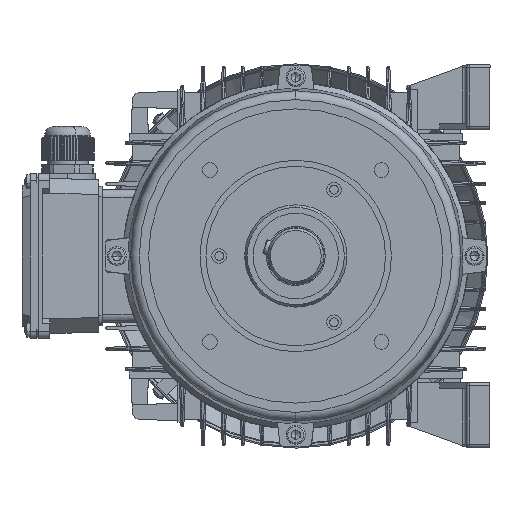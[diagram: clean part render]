
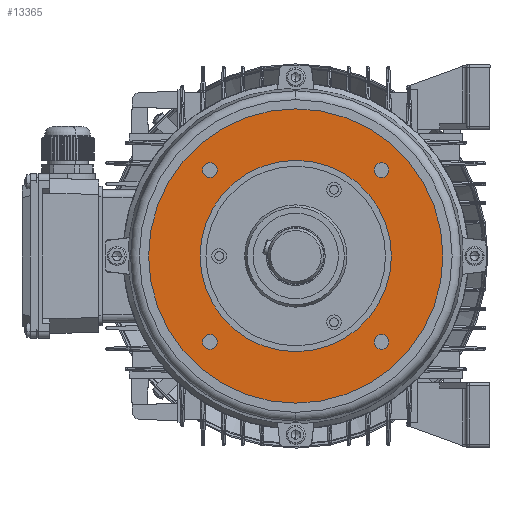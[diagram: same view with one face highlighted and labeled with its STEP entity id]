
A CAD part, left-side view. The second image highlights one B-rep face of the part: STEP entity #13365.
In plain terms, the highlighted planar face has unit normal (-1, 0, 0).
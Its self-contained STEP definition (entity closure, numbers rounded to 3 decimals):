
#4762 = DIRECTION ( 'NONE',  ( 0., 0., 1. ) ) ;
#8361 = EDGE_LOOP ( 'NONE', ( #82336, #64288 ) ) ;
#9324 = CIRCLE ( 'NONE', #75672, 5. ) ;
#9686 = DIRECTION ( 'NONE',  ( 0., 0., -1. ) ) ;
#9802 = CIRCLE ( 'NONE', #82036, 5. ) ;
#10241 = CIRCLE ( 'NONE', #122213, 5. ) ;
#10292 = DIRECTION ( 'NONE',  ( 0., 0., -1. ) ) ;
#13365 = ADVANCED_FACE ( 'NONE', ( #113324, #99081, #122864, #132344, #141899, #151468 ), #97032, .F. ) ;
#13437 = VERTEX_POINT ( 'NONE', #151239 ) ;
#13615 = CARTESIAN_POINT ( 'NONE',  ( 3.5, 58.336, -58.336 ) ) ;
#17548 = AXIS2_PLACEMENT_3D ( 'NONE', #47558, #28660, #9686 ) ;
#20653 = EDGE_CURVE ( 'NONE', #118233, #98351, #42379, .T. ) ;
#23156 = CARTESIAN_POINT ( 'NONE',  ( 3.5, 58.336, -53.336 ) ) ;
#23387 = DIRECTION ( 'NONE',  ( 0., 0., -1. ) ) ;
#23790 = DIRECTION ( 'NONE',  ( -1., 0., 0. ) ) ;
#25079 = AXIS2_PLACEMENT_3D ( 'NONE', #48155, #29241, #10292 ) ;
#25159 = DIRECTION ( 'NONE',  ( 0., 0., 1. ) ) ;
#25799 = EDGE_CURVE ( 'NONE', #13437, #177411, #117354, .T. ) ;
#28660 = DIRECTION ( 'NONE',  ( 1., 0., 0. ) ) ;
#29241 = DIRECTION ( 'NONE',  ( 1., 0., 0. ) ) ;
#35384 = EDGE_CURVE ( 'NONE', #70164, #183349, #54802, .T. ) ;
#36179 = EDGE_CURVE ( 'NONE', #174346, #40818, #126534, .T. ) ;
#37310 = CARTESIAN_POINT ( 'NONE',  ( 3.5, -58.336, -63.336 ) ) ;
#40079 = VERTEX_POINT ( 'NONE', #37310 ) ;
#40264 = DIRECTION ( 'NONE',  ( 0., 0., -1. ) ) ;
#40818 = VERTEX_POINT ( 'NONE', #99406 ) ;
#40828 = ORIENTED_EDGE ( 'NONE', *, *, #154578, .F. ) ;
#42255 = DIRECTION ( 'NONE',  ( 1., 0., 0. ) ) ;
#42379 = CIRCLE ( 'NONE', #169642, 5. ) ;
#43240 = VERTEX_POINT ( 'NONE', #69346 ) ;
#44021 = DIRECTION ( 'NONE',  ( -1., 0., 0. ) ) ;
#47558 = CARTESIAN_POINT ( 'NONE',  ( 3.5, 58.336, 58.336 ) ) ;
#48026 = ORIENTED_EDGE ( 'NONE', *, *, #49301, .T. ) ;
#48155 = CARTESIAN_POINT ( 'NONE',  ( 3.5, 58.336, 58.336 ) ) ;
#48416 = EDGE_CURVE ( 'NONE', #89465, #40079, #9324, .T. ) ;
#49301 = EDGE_CURVE ( 'NONE', #43240, #53611, #10241, .T. ) ;
#53611 = VERTEX_POINT ( 'NONE', #161081 ) ;
#53867 = DIRECTION ( 'NONE',  ( 0., 0., 1. ) ) ;
#54056 = DIRECTION ( 'NONE',  ( 0., 0., -1. ) ) ;
#54802 = CIRCLE ( 'NONE', #104912, 100. ) ;
#55645 = EDGE_LOOP ( 'NONE', ( #48026, #75110 ) ) ;
#59166 = DIRECTION ( 'NONE',  ( 1., 0., 0. ) ) ;
#61063 = DIRECTION ( 'NONE',  ( 0., 0., -1. ) ) ;
#61174 = CARTESIAN_POINT ( 'NONE',  ( 3.5, -58.336, -58.336 ) ) ;
#63973 = EDGE_CURVE ( 'NONE', #40818, #174346, #96560, .T. ) ;
#64288 = ORIENTED_EDGE ( 'NONE', *, *, #48416, .T. ) ;
#65012 = ORIENTED_EDGE ( 'NONE', *, *, #63973, .T. ) ;
#66746 = CIRCLE ( 'NONE', #75318, 100. ) ;
#69346 = CARTESIAN_POINT ( 'NONE',  ( 3.5, -58.336, 53.336 ) ) ;
#70164 = VERTEX_POINT ( 'NONE', #94626 ) ;
#71440 = ORIENTED_EDGE ( 'NONE', *, *, #109636, .T. ) ;
#72755 = DIRECTION ( 'NONE',  ( -1., 0., 0. ) ) ;
#72942 = DIRECTION ( 'NONE',  ( 1., 0., 0. ) ) ;
#75110 = ORIENTED_EDGE ( 'NONE', *, *, #176739, .T. ) ;
#75318 = AXIS2_PLACEMENT_3D ( 'NONE', #80540, #23790, #4762 ) ;
#75563 = EDGE_CURVE ( 'NONE', #183349, #70164, #66746, .T. ) ;
#75672 = AXIS2_PLACEMENT_3D ( 'NONE', #61174, #42255, #23387 ) ;
#75758 = EDGE_LOOP ( 'NONE', ( #164406, #71440 ) ) ;
#77237 = CARTESIAN_POINT ( 'NONE',  ( 3.5, 0., 0. ) ) ;
#78107 = CARTESIAN_POINT ( 'NONE',  ( 3.5, 65., 0. ) ) ;
#79017 = AXIS2_PLACEMENT_3D ( 'NONE', #184552, #165676, #146802 ) ;
#80006 = DIRECTION ( 'NONE',  ( 1., 0., 0. ) ) ;
#80194 = EDGE_LOOP ( 'NONE', ( #40828, #128839 ) ) ;
#80540 = CARTESIAN_POINT ( 'NONE',  ( 3.5, 0., 0. ) ) ;
#82005 = CIRCLE ( 'NONE', #146337, 5. ) ;
#82036 = AXIS2_PLACEMENT_3D ( 'NONE', #13615, #179322, #160402 ) ;
#82336 = ORIENTED_EDGE ( 'NONE', *, *, #163424, .T. ) ;
#89465 = VERTEX_POINT ( 'NONE', #172149 ) ;
#91914 = CARTESIAN_POINT ( 'NONE',  ( 3.5, -58.336, 58.336 ) ) ;
#93510 = CIRCLE ( 'NONE', #79017, 5. ) ;
#94626 = CARTESIAN_POINT ( 'NONE',  ( 3.5, 0., -100. ) ) ;
#96560 = CIRCLE ( 'NONE', #17548, 5. ) ;
#97032 = PLANE ( 'NONE',  #118076 ) ;
#98351 = VERTEX_POINT ( 'NONE', #23156 ) ;
#98897 = CARTESIAN_POINT ( 'NONE',  ( 3.5, -58.336, -58.336 ) ) ;
#99081 = FACE_BOUND ( 'NONE', #8361, .T. ) ;
#99406 = CARTESIAN_POINT ( 'NONE',  ( 3.5, 58.336, 63.336 ) ) ;
#104912 = AXIS2_PLACEMENT_3D ( 'NONE', #138568, #44021, #25159 ) ;
#108307 = DIRECTION ( 'NONE',  ( 0., 0., 1. ) ) ;
#109636 = EDGE_CURVE ( 'NONE', #98351, #118233, #9802, .T. ) ;
#112004 = CARTESIAN_POINT ( 'NONE',  ( 3.5, 58.336, -63.336 ) ) ;
#113324 = FACE_BOUND ( 'NONE', #55645, .T. ) ;
#117354 = CIRCLE ( 'NONE', #177408, 65. ) ;
#118076 = AXIS2_PLACEMENT_3D ( 'NONE', #78107, #59166, #40264 ) ;
#118233 = VERTEX_POINT ( 'NONE', #112004 ) ;
#121170 = ORIENTED_EDGE ( 'NONE', *, *, #75563, .T. ) ;
#122213 = AXIS2_PLACEMENT_3D ( 'NONE', #91914, #72942, #54056 ) ;
#122864 = FACE_BOUND ( 'NONE', #75758, .T. ) ;
#126534 = CIRCLE ( 'NONE', #25079, 5. ) ;
#127107 = DIRECTION ( 'NONE',  ( -1., 0., 0. ) ) ;
#128419 = CIRCLE ( 'NONE', #176387, 65. ) ;
#128839 = ORIENTED_EDGE ( 'NONE', *, *, #25799, .F. ) ;
#132344 = FACE_BOUND ( 'NONE', #145258, .T. ) ;
#134249 = CARTESIAN_POINT ( 'NONE',  ( 3.5, 58.336, 53.336 ) ) ;
#136570 = CARTESIAN_POINT ( 'NONE',  ( 3.5, 0., 100. ) ) ;
#138568 = CARTESIAN_POINT ( 'NONE',  ( 3.5, 0., 0. ) ) ;
#139685 = CARTESIAN_POINT ( 'NONE',  ( 3.5, 0., 65. ) ) ;
#141899 = FACE_BOUND ( 'NONE', #80194, .T. ) ;
#144435 = DIRECTION ( 'NONE',  ( 0., 0., -1. ) ) ;
#145258 = EDGE_LOOP ( 'NONE', ( #166477, #65012 ) ) ;
#146058 = CARTESIAN_POINT ( 'NONE',  ( 3.5, 0., 0. ) ) ;
#146337 = AXIS2_PLACEMENT_3D ( 'NONE', #98897, #80006, #61063 ) ;
#146802 = DIRECTION ( 'NONE',  ( 0., 0., -1. ) ) ;
#151239 = CARTESIAN_POINT ( 'NONE',  ( 3.5, 0., -65. ) ) ;
#151468 = FACE_OUTER_BOUND ( 'NONE', #172802, .T. ) ;
#154578 = EDGE_CURVE ( 'NONE', #177411, #13437, #128419, .T. ) ;
#160402 = DIRECTION ( 'NONE',  ( 0., 0., -1. ) ) ;
#161081 = CARTESIAN_POINT ( 'NONE',  ( 3.5, -58.336, 63.336 ) ) ;
#163348 = DIRECTION ( 'NONE',  ( 1., 0., 0. ) ) ;
#163424 = EDGE_CURVE ( 'NONE', #40079, #89465, #82005, .T. ) ;
#164406 = ORIENTED_EDGE ( 'NONE', *, *, #20653, .T. ) ;
#165676 = DIRECTION ( 'NONE',  ( 1., 0., 0. ) ) ;
#166477 = ORIENTED_EDGE ( 'NONE', *, *, #36179, .T. ) ;
#169642 = AXIS2_PLACEMENT_3D ( 'NONE', #182227, #163348, #144435 ) ;
#172149 = CARTESIAN_POINT ( 'NONE',  ( 3.5, -58.336, -53.336 ) ) ;
#172802 = EDGE_LOOP ( 'NONE', ( #121170, #179902 ) ) ;
#174346 = VERTEX_POINT ( 'NONE', #134249 ) ;
#176387 = AXIS2_PLACEMENT_3D ( 'NONE', #77237, #72755, #53867 ) ;
#176739 = EDGE_CURVE ( 'NONE', #53611, #43240, #93510, .T. ) ;
#177408 = AXIS2_PLACEMENT_3D ( 'NONE', #146058, #127107, #108307 ) ;
#177411 = VERTEX_POINT ( 'NONE', #139685 ) ;
#179322 = DIRECTION ( 'NONE',  ( 1., 0., 0. ) ) ;
#179902 = ORIENTED_EDGE ( 'NONE', *, *, #35384, .T. ) ;
#182227 = CARTESIAN_POINT ( 'NONE',  ( 3.5, 58.336, -58.336 ) ) ;
#183349 = VERTEX_POINT ( 'NONE', #136570 ) ;
#184552 = CARTESIAN_POINT ( 'NONE',  ( 3.5, -58.336, 58.336 ) ) ;
